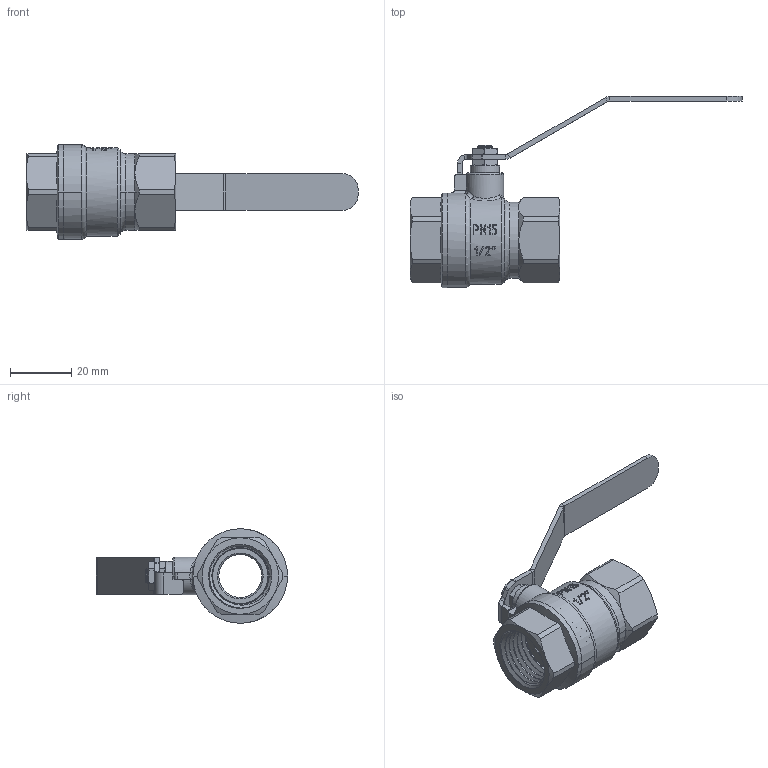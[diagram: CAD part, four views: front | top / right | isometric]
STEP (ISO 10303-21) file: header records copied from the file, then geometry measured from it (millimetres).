
FILE_DESCRIPTION((''),'2;1');
FILE_NAME('3022-04_ASM','2021-12-23T10:08:11',('Niko Srt'),('Audax d.o.o.'),'CREO PARAMETRIC BY PTC INC, 2019030','CREO PARAMETRIC BY PTC INC, 2019030','');
FILE_SCHEMA(('CONFIG_CONTROL_DESIGN','GEOMETRIC_VALIDATION_PROPERTIES_MIM'));
Length unit declared in the file: millimetre
Products named in the file (11): 3022-04-01; 3022-04-02; 3022-04-03; 3022-04-04; 3022-04-05; 3022-04-06; 3022-04-07; 3022-04-08; 3022-04-09; 3022-04-10; 3022-04_ASM
Assembly tree (13 placements, depth 2):
  3022-04_ASM
    3022-04-01
    3022-04-02
    3022-04-03
    3022-04-04  x2
    3022-04-05  x2
    3022-04-06
    3022-04-07
    3022-04-08
    3022-04-09  x2
    3022-04-10
Bounding box: 108.5 x 62.45 x 30.9 mm (x, y, z)
Volume: 20360 mm3; surface area: 21216.5 mm2
Topology: 13 solids, 15 shells, 589 faces, 1432 edges, 891 vertices
Faces by surface type: plane 160, cylinder 130, cone 124, extrusion 77, torus 47, bspline 45, sphere 6
Entity records: 29591 total; most frequent: CARTESIAN_POINT 12851, ORIENTED_EDGE 2608, DIRECTION 2129, PRESENTATION_STYLE_ASSIGNMENT 1317, STYLED_ITEM 1317, CURVE_STYLE 1306, EDGE_CURVE 1306, VERTEX_POINT 819
